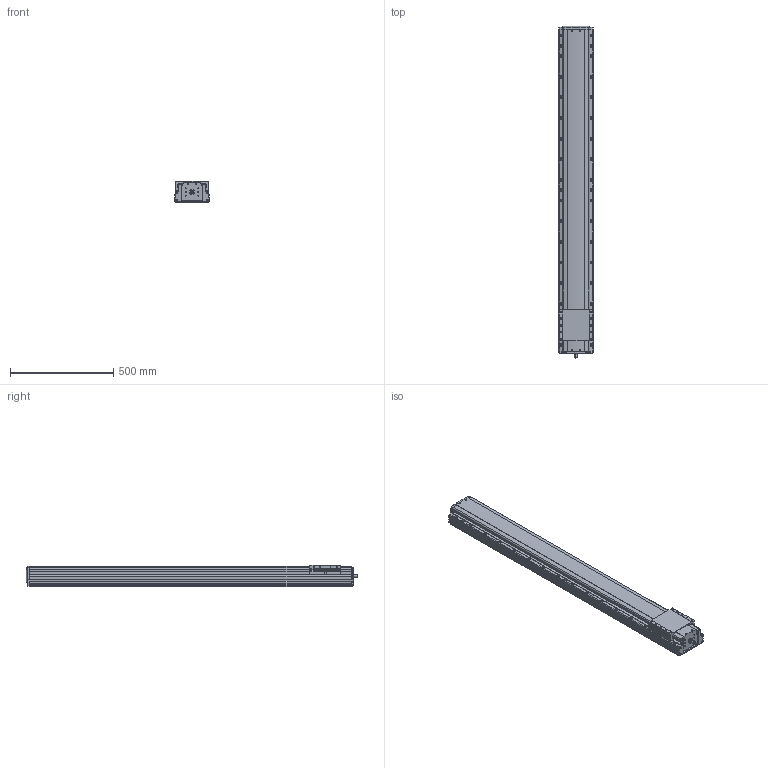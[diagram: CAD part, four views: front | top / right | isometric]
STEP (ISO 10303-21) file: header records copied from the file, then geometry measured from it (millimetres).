
FILE_DESCRIPTION(('STEP AP214'),'1');
FILE_NAME('Z:/Web/3D/PSA165/STP/PSA165-1300 (3D)/PSA165ㅁㅁ-1300.stp','2014-06-24T10:33:57',(' '),(' '),'Spatial InterOp 3D',' ',' ');
FILE_SCHEMA(('automotive_design'));
Length unit declared in the file: millimetre
Products named in the file (18): 스크루 : Round - M4.0 x 12.0; RRCV-PA160; BASE; 스크루 : Round - M4.0 x 10.0; RN15; Screw 20; SLIDE; FRCV
Bounding box: 165 x 1608.8 x 104 mm (x, y, z)
Volume: 21598745.5 mm3; surface area: 1267263.9 mm2
Topology: 18 solids, 18 shells, 2071 faces, 5641 edges, 3589 vertices
Faces by surface type: plane 1072, cylinder 725, cone 201, sphere 32, bspline 25, torus 16
Entity records: 85196 total; most frequent: CARTESIAN_POINT 15745, DIRECTION 11029, ORIENTED_EDGE 10966, EDGE_CURVE 5483, AXIS2_PLACEMENT_3D 3727, VERTEX_POINT 3589, LINE 3575, VECTOR 3575
